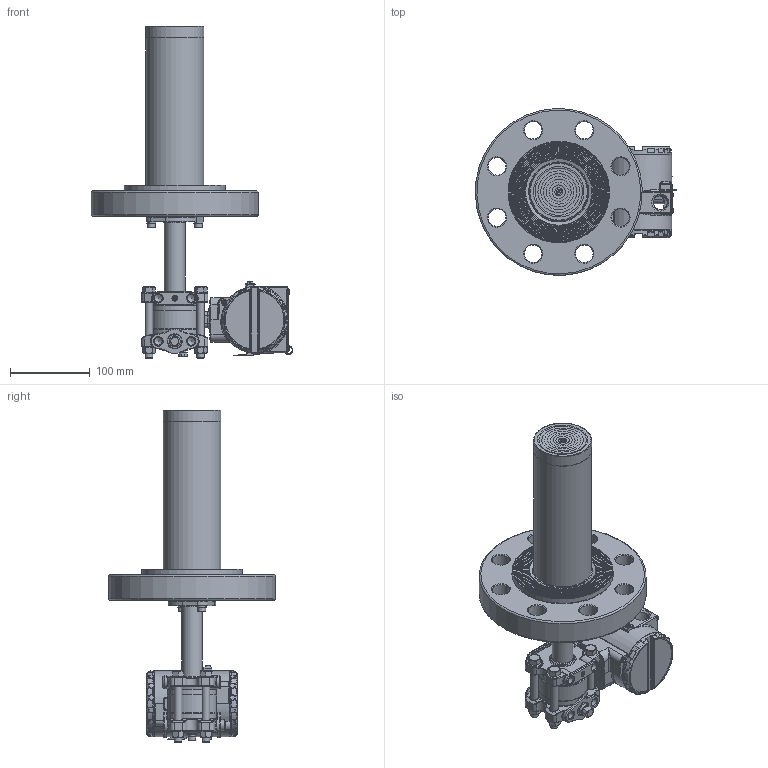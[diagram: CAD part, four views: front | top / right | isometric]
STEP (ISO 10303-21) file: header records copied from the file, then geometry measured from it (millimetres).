
FILE_DESCRIPTION(/* description */ (''),/* implementation_level */ '2;1');
FILE_NAME(/* name */ 'F:\Area\Desenvolvimento_2\Projects\Sensor\projetos\LD30X\montagens 3d - clientes\SELO NIVEL\LD30XL 3-600 RF ext 200 ref 1-4NPT purga acima.stp',/* time_stamp */ '2023-02-10T17:20:32-03:00',/* author */ ('inventor02'),/* organization */ (''),/* preprocessor_version */ 'ST-DEVELOPER v17',/* originating_system */ 'Autodesk Inventor 2019',/* authorisation */ '');
FILE_SCHEMA (('CONFIG_CONTROL_DESIGN'));
Products named in the file (41): LD30XL 3-600 RF ext 200 ref 1-4NPT purga acima; 204-0301-L-3 600 RF ext 200 purga acima; nivel fx3 com baixa diferencial 1-4NPT purga acima; involucro fx0-3 apos a usinagem final; flange diferencial std purga; 101-C-7484-01 flange selo nivel VR; 201-A-0504-tubo união teste 1; bujao 1-4NPT; Sangria; Porca 3-8 x 16 UNC; Paraf. 3-8 x 16 UNC; adaptação tubo x flanges 1-1-2 a 4pol; 101-B-0161-anel cortado do tubo - teste1; 101-B-0162-flange fixação tubo; ANSI B18.3.1M - M6x1 x 16; DIN 127 - A 6; flange 3 600 ext 200; 101-C-0129-12; 096-B-0199-14; 101-B-7701-02 ext 3-200; carcaça vazia com tampas e plaqueta; carcaça LD inox sem letras; Subconjunto plaqueta 300; Plaqueta transmissor; Parafuso da Plaqueta; Rebite da Plaqueta; 096-A-0169-03; 101-A-0502-01; Chapa aterramento externo; ISO 1207 - M4 x 8; DIN 915 - M6 x 10; ANSI B18.3.1M - M4x0,7 x 8; Subconjunto tampa com visor aluminio; tampa pintada; VIDRO DO VISOR; oring 41x1 vidro tampa; Trava do vidro da tampa com visor; trava do vidro VH256; Subconjunto tampa sem visor-aluminio; tampa cega 300 pintada p0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
Assembly tree (51 placements, depth 4):
  LD30XL 3-600 RF ext 200 ref 1-4NPT purga acima
    204-0301-L-3 600 RF ext 200 purga acima
      nivel fx3 com baixa diferencial 1-4NPT purga acima
        involucro fx0-3 apos a usinagem final
        flange diferencial std purga
        101-C-7484-01 flange selo nivel VR
        201-A-0504-tubo união teste 1
        DIN 915 - M6 x 10
        bujao 1-4NPT
        Sangria
        Porca 3-8 x 16 UNC  x4
        Paraf. 3-8 x 16 UNC  x4
      adaptação tubo x flanges 1-1-2 a 4pol
        101-B-0161-anel cortado do tubo - teste1
        101-B-0162-flange fixação tubo
        ANSI B18.3.1M - M6x1 x 16  x2
        DIN 127 - A 6  x2
      flange 3 600 ext 200
        101-C-0129-12
        096-B-0199-14
        101-B-7701-02 ext 3-200
    carcaça vazia com tampas e plaqueta
      carcaça LD inox sem letras
      Subconjunto plaqueta 300
        Plaqueta transmissor
        Parafuso da Plaqueta
        Rebite da Plaqueta
        096-A-0169-03
        101-A-0502-01
      Chapa aterramento externo
      ISO 1207 - M4 x 8
      DIN 915 - M6 x 10
      ANSI B18.3.1M - M4x0,7 x 8  x2
      Subconjunto tampa com visor aluminio
        tampa pintada
        VIDRO DO VISOR
        oring 41x1 vidro tampa
        Trava do vidro da tampa com visor
        trava do vidro VH256
        00034775-0
      Subconjunto tampa sem visor-aluminio
        tampa cega 300 pintada p0
        00034775-0
Bounding box: 253.18 x 209.8 x 417.6 mm (x, y, z)
Volume: 1856910.1 mm3; surface area: 456119.7 mm2
Topology: 43 solids, 43 shells, 2774 faces, 6631 edges, 3931 vertices
Faces by surface type: bspline 667, cylinder 660, plane 578, torus 487, cone 256, sphere 126
Full cylindrical faces by diameter (mm): 2 x4, 2.1 x2, 2.459 x5, 2.5 x1, 2.642 x1, 2.7 x1, 2.8 x1, 3 x4, 3.242 x4, 3.5 x5, 3.571 x1, 4 x5, 4.3 x1, 4.4 x1, 4.917 x4, 5 x1, 5.5 x3, 6 x6, 6.647 x1, 7 x7, 7.087 x2, 7.6 x2, 7.798 x4, 8 x1, 8.7 x2, 9.525 x4, 9.728 x6, 10 x2, 10.5 x8, 10.719 x2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
Entity records: 95612 total; most frequent: CARTESIAN_POINT 34811, DIRECTION 12575, ORIENTED_EDGE 12442, EDGE_CURVE 6221, AXIS2_PLACEMENT_3D 5560, VERTEX_POINT 3737, CIRCLE 3297, EDGE_LOOP 2840
